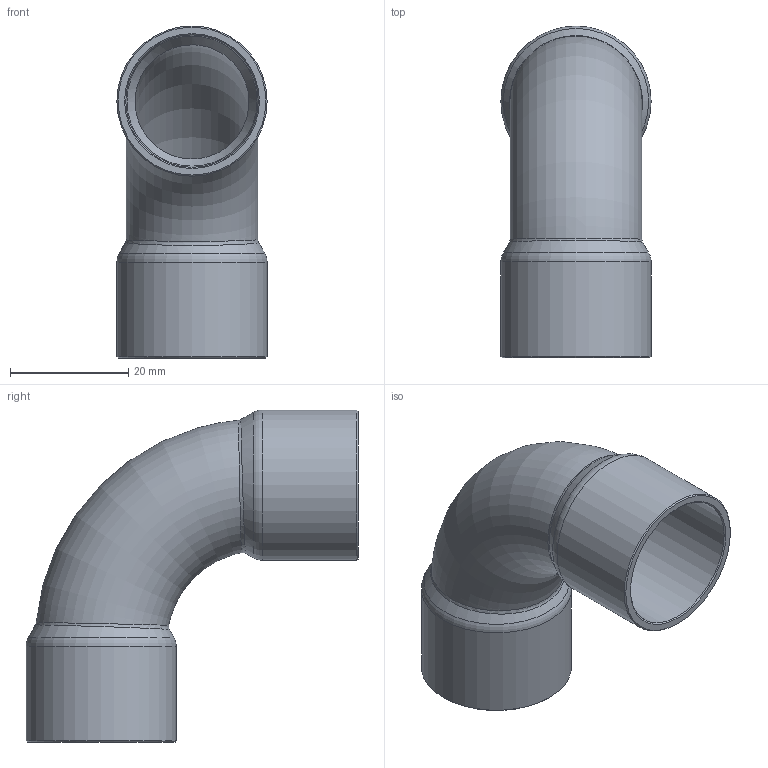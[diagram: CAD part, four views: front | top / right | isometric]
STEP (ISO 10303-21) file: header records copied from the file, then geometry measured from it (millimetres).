
FILE_DESCRIPTION((''),'2;1');
FILE_NAME('G:\SANHA-Ternat\Technik\Management\Bouwmaten + markeringen\z-maattekeningen 3D\29000s\29002A78_3d.stp','2017-07-26T08:53:26',('vdvijverd'),(''),'Autodesk Inventor 2009','Autodesk Inventor 2009','');
FILE_SCHEMA(('AUTOMOTIVE_DESIGN { 1 0 10303 214 1 1 1 1 }'));
Length unit declared in the file: millimetre
Products named in the file (1): 29002A78_3d
Bounding box: 25.38 x 56.09 x 56.09 mm (x, y, z)
Volume: 7973.1 mm3; surface area: 10824.5 mm2
Topology: 1 solids, 1 shells, 22 faces, 42 edges, 22 vertices
Faces by surface type: bspline 9, cone 6, torus 4, cylinder 2, plane 1
Full cylindrical faces by diameter (mm): 22.375 x1, 25.375 x1
Entity records: 1462 total; most frequent: CARTESIAN_POINT 1096, DIRECTION 64, ORIENTED_EDGE 48, EDGE_LOOP 42, AXIS2_PLACEMENT_3D 32, EDGE_CURVE 24, VERTEX_POINT 22, FACE_OUTER_BOUND 22
